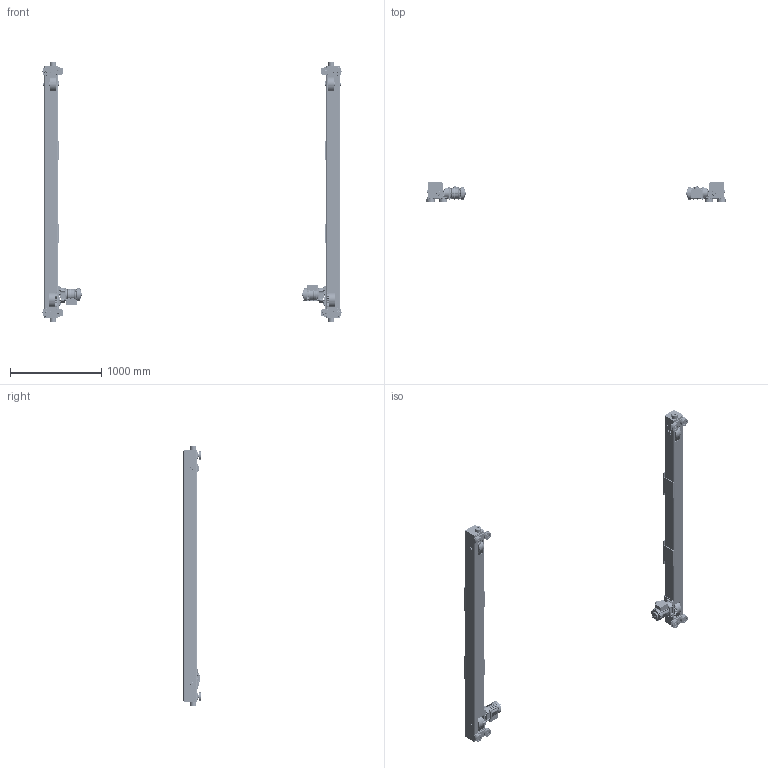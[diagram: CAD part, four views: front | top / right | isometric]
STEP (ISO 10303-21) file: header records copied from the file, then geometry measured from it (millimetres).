
FILE_DESCRIPTION (( 'STEP AP214' ), '1' );
FILE_NAME ('MTML-3-0360.STEP', '2026-08-14T17:28:05', ( '' ), ( '' ), 'SwSTEP 2.0', 'SolidWorks 2026', '' );
FILE_SCHEMA (( 'AUTOMOTIVE_DESIGN' ));
Length unit declared in the file: millimetre
Products named in the file (67): G1JE025S9603; T7G117030; G1JE025S9503; N6QO310E9108_N6QO3101108 DOMESTIC; 6240824; N6Q0720E9102; 9798526_9798526; 6240820; 9091273_9091273; N6QO720E91341; G1JE025S9310; G1JE025S9609; 6232404; 9012709_Rectangular section spring washer BS 4464 - 16 (Type B); G1JE025S9401; 9047252_9047252; 62420_6242002; 9093101_9093101; 9093330_9093330; G1JE025S9604; 6240809; MTML-3-0360; 9093327_9093327; 62422_0350-0360 - 25# RAIL; MS555010_MS555010; G1JE025S9707; 6240805X_6240805A; 9047125_B27.7M - 3AM1-23; N6Q07201102; 6240813; N6QO720E91013; G1JM025S_NORMAL; 6240825; T600-600-004_108.125; G1JM025S_ROTATED 180 DEGREES; 62587; 9000605; 6240810; 62423_0350-0360 - 25# RAIL; 9091254_9091254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
Assembly tree (239 placements, depth 4):
  MTML-3-0360
    62422_0350-0360 - 25# RAIL
      62420_6242002
        T600-600-004_108.125
        6240824
        6240820
        6240824
      6240811  x2
      6240813  x2
      6240810
      6240808
      6240809
      T7G117030
      6240817X_6240817A  x2
        6240805X_6240805A
        6232305
    62423_0350-0360 - 25# RAIL
      62421_6242102
        T600-600-004_108.125
        6240824
        6240820
        6240824
      6240811  x2
      6240813  x2
      T7G117030
      6240809
      6240808
      6240810
      6240817X_6240817A  x2
        6240805X_6240805A
        6232305
    N6QO3101108_N6QO3101108  x8
      N6QO310E9108_N6QO3101108 DOMESTIC
      9047252_9047252
      9000605
    6232404  x8
    9047125_B27.7M - 3AM1-23  x8
    N6QL210207  x4
    9012514_9012514  x4
    9012711_9012711  x21
    9093101_9093101  x4
    6240815  x4
    6240825  x4
    9093327_9093327  x8
    N6QO7201101  x2
      N6QO720E91311
      N6QO720E91013
      9000707
      J1WS011-10060_GB_FASTENER_WASHER_SW 6
      J1BE1-0602020_AS 1420 - M6 x 20-S
      N6QO720E91341
    N6Q07201102  x2
      N6Q0720E9102
      9000707
    G1JM025S_NORMAL
      G1JE025S9303
      G1JE025S9310
      G1JE025S9401
      G1JE025S9503
      G1JE025S9610
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Bounding box: 3275.61 x 207.96 x 2843.43 mm (x, y, z)
Volume: 36927958.2 mm3; surface area: 9779402 mm2
Topology: 263 solids, 327 shells, 18640 faces, 46970 edges, 29634 vertices
Faces by surface type: plane 8960, cylinder 4462, bspline 2134, cone 2002, torus 896, sphere 186
Entity records: 196793 total; most frequent: CARTESIAN_POINT 84912, ORIENTED_EDGE 23184, DIRECTION 21076, EDGE_CURVE 11596, AXIS2_PLACEMENT_3D 7981, VERTEX_POINT 7377, VECTOR 5114, LINE 5114
